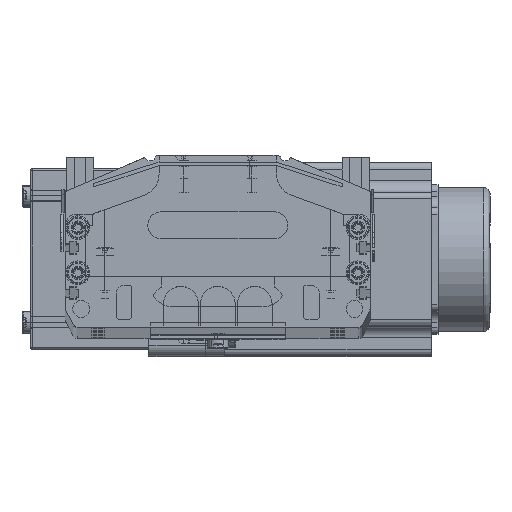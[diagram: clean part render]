
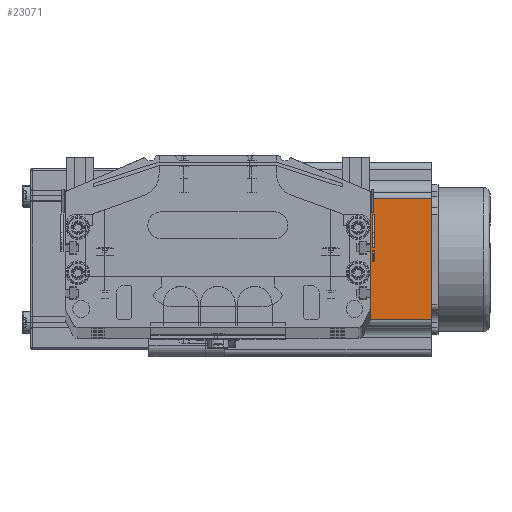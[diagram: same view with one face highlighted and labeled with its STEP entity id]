
A CAD part, top view. The second image highlights one B-rep face of the part: STEP entity #23071.
In plain terms, the highlighted planar face has unit normal (0, 0, 1) as drawn and (-1, 0, 0) by its records, which use the part's own axes.
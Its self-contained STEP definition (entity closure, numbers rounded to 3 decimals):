
#22946 = EDGE_CURVE ( 'NONE', #23196, #23193, #41113, .T. ) ;
#22950 = VERTEX_POINT ( 'NONE', #41098 ) ;
#22957 = VERTEX_POINT ( 'NONE', #41104 ) ;
#23071 = ADVANCED_FACE ( 'NONE', ( #30619 ), #30465, .F. ) ;
#23073 = ORIENTED_EDGE ( 'NONE', *, *, #22946, .T. ) ;
#23083 = ORIENTED_EDGE ( 'NONE', *, *, #23088, .F. ) ;
#23088 = EDGE_CURVE ( 'NONE', #22957, #23193, #30482, .T. ) ;
#23193 = VERTEX_POINT ( 'NONE', #31229 ) ;
#23196 = VERTEX_POINT ( 'NONE', #31010 ) ;
#23976 = ORIENTED_EDGE ( 'NONE', *, *, #24142, .T. ) ;
#23993 = ORIENTED_EDGE ( 'NONE', *, *, #24109, .T. ) ;
#24036 = EDGE_LOOP ( 'NONE', ( #23976, #23073, #23083, #23993 ) ) ;
#24109 = EDGE_CURVE ( 'NONE', #22957, #22950, #31992, .T. ) ;
#24142 = EDGE_CURVE ( 'NONE', #22950, #23196, #31787, .T. ) ;
#30465 = PLANE ( 'NONE',  #30469 ) ;
#30469 = AXIS2_PLACEMENT_3D ( 'NONE', #30692, #30721, #30490 ) ;
#30482 = LINE ( 'NONE', #30795, #30793 ) ;
#30490 = DIRECTION ( 'NONE',  ( 0., 0., -1. ) ) ;
#30619 = FACE_OUTER_BOUND ( 'NONE', #24036, .T. ) ;
#30692 = CARTESIAN_POINT ( 'NONE',  ( 0., 0., 91.5 ) ) ;
#30721 = DIRECTION ( 'NONE',  ( 1., 0., 0. ) ) ;
#30792 = DIRECTION ( 'NONE',  ( 0., -1., 0. ) ) ;
#30793 = VECTOR ( 'NONE', #30792, 1000. ) ;
#30795 = CARTESIAN_POINT ( 'NONE',  ( 0., 0., 91.5 ) ) ;
#31010 = CARTESIAN_POINT ( 'NONE',  ( 0., 16.16, 0. ) ) ;
#31229 = CARTESIAN_POINT ( 'NONE',  ( 0., 16.16, 91.5 ) ) ;
#31784 = VECTOR ( 'NONE', #31990, 1000. ) ;
#31787 = LINE ( 'NONE', #32124, #32122 ) ;
#31990 = DIRECTION ( 'NONE',  ( 0., 0., -1. ) ) ;
#31991 = CARTESIAN_POINT ( 'NONE',  ( 0., 69.74, 91.5 ) ) ;
#31992 = LINE ( 'NONE', #31991, #31784 ) ;
#32121 = DIRECTION ( 'NONE',  ( 0., -1., 0. ) ) ;
#32122 = VECTOR ( 'NONE', #32121, 1000. ) ;
#32124 = CARTESIAN_POINT ( 'NONE',  ( 0., 0., 0. ) ) ;
#41098 = CARTESIAN_POINT ( 'NONE',  ( 0., 69.74, 0. ) ) ;
#41099 = DIRECTION ( 'NONE',  ( 0., 0., 1. ) ) ;
#41100 = VECTOR ( 'NONE', #41099, 1000. ) ;
#41104 = CARTESIAN_POINT ( 'NONE',  ( 0., 69.74, 91.5 ) ) ;
#41112 = CARTESIAN_POINT ( 'NONE',  ( 0., 16.16, 91.5 ) ) ;
#41113 = LINE ( 'NONE', #41112, #41100 ) ;
